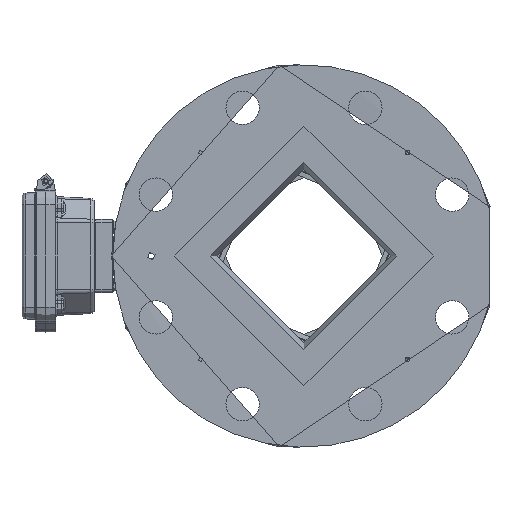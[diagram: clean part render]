
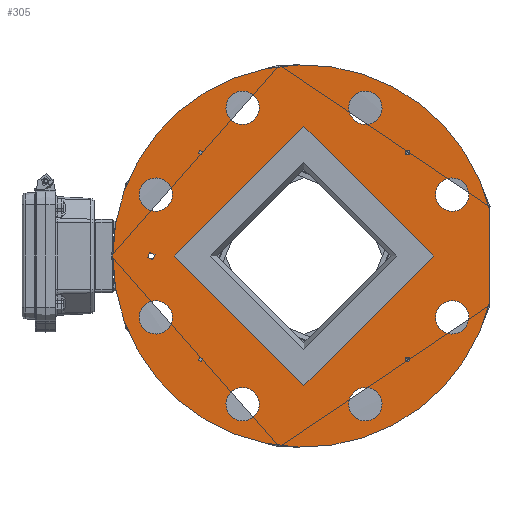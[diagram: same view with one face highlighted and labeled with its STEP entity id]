
A CAD part, left-side view. The second image highlights one B-rep face of the part: STEP entity #305.
In plain terms, the highlighted planar face has unit normal (-1, 0, 0).
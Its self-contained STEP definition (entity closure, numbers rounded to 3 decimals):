
#305=ADVANCED_FACE('',(#15922,#15924,#15926,#15928,#15930,#15932,#15934,#15936,#15938,
#15940,#15942,#15944,#15946,#15948,#15950),#15952,.T.);
#15922=FACE_BOUND('',#15923,.T.);
#15923=EDGE_LOOP('',(#30040,#30041));
#15924=FACE_BOUND('',#15925,.T.);
#15925=EDGE_LOOP('',(#30042));
#15926=FACE_BOUND('',#15927,.T.);
#15927=EDGE_LOOP('',(#30043));
#15928=FACE_BOUND('',#15929,.T.);
#15929=EDGE_LOOP('',(#30044));
#15930=FACE_BOUND('',#15931,.T.);
#15931=EDGE_LOOP('',(#30045));
#15932=FACE_BOUND('',#15933,.T.);
#15933=EDGE_LOOP('',(#30046));
#15934=FACE_BOUND('',#15935,.T.);
#15935=EDGE_LOOP('',(#30047));
#15936=FACE_BOUND('',#15937,.T.);
#15937=EDGE_LOOP('',(#30048));
#15938=FACE_BOUND('',#15939,.T.);
#15939=EDGE_LOOP('',(#30049));
#15940=FACE_BOUND('',#15941,.T.);
#15941=EDGE_LOOP('',(#30050));
#15942=FACE_BOUND('',#15943,.T.);
#15943=EDGE_LOOP('',(#30051));
#15944=FACE_BOUND('',#15945,.T.);
#15945=EDGE_LOOP('',(#30052));
#15946=FACE_BOUND('',#15947,.T.);
#15947=EDGE_LOOP('',(#30053));
#15948=FACE_BOUND('',#15949,.T.);
#15949=EDGE_LOOP('',(#30054));
#15950=FACE_BOUND('',#15951,.T.);
#15951=EDGE_LOOP('',(#30055));
#15952=PLANE('',#15953);
#15953=AXIS2_PLACEMENT_3D('',#15954,#15955,#15956);
#15954=CARTESIAN_POINT('',(-150.,-84.016,0.));
#15955=DIRECTION('',(-1.,0.,0.));
#15956=DIRECTION('',(0.,0.924,-0.383));
#30040=ORIENTED_EDGE('',*,*,#34749,.T.);
#30041=ORIENTED_EDGE('',*,*,#34770,.T.);
#30042=ORIENTED_EDGE('',*,*,#34755,.T.);
#30043=ORIENTED_EDGE('',*,*,#34771,.T.);
#30044=ORIENTED_EDGE('',*,*,#34756,.T.);
#30045=ORIENTED_EDGE('',*,*,#34772,.F.);
#30046=ORIENTED_EDGE('',*,*,#34758,.T.);
#30047=ORIENTED_EDGE('',*,*,#34759,.T.);
#30048=ORIENTED_EDGE('',*,*,#34760,.T.);
#30049=ORIENTED_EDGE('',*,*,#34761,.T.);
#30050=ORIENTED_EDGE('',*,*,#34762,.T.);
#30051=ORIENTED_EDGE('',*,*,#34763,.T.);
#30052=ORIENTED_EDGE('',*,*,#34764,.T.);
#30053=ORIENTED_EDGE('',*,*,#34773,.T.);
#30054=ORIENTED_EDGE('',*,*,#34774,.T.);
#30055=ORIENTED_EDGE('',*,*,#34775,.T.);
#34749=EDGE_CURVE('',#37153,#37151,#37154,.F.);
#34755=EDGE_CURVE('',#37162,#37162,#37163,.F.);
#34756=EDGE_CURVE('',#37164,#37164,#37165,.T.);
#34758=EDGE_CURVE('',#37168,#37168,#37169,.T.);
#34759=EDGE_CURVE('',#37170,#37170,#37171,.T.);
#34760=EDGE_CURVE('',#37172,#37172,#37173,.T.);
#34761=EDGE_CURVE('',#37174,#37174,#37175,.T.);
#34762=EDGE_CURVE('',#37176,#37176,#37177,.T.);
#34763=EDGE_CURVE('',#37178,#37178,#37179,.T.);
#34764=EDGE_CURVE('',#37180,#37180,#37181,.T.);
#34770=EDGE_CURVE('',#37151,#37153,#37191,.T.);
#34771=EDGE_CURVE('',#37192,#37192,#37193,.F.);
#34772=EDGE_CURVE('',#37194,#37194,#37195,.T.);
#34773=EDGE_CURVE('',#37196,#37196,#37197,.F.);
#34774=EDGE_CURVE('',#37198,#37198,#37199,.F.);
#34775=EDGE_CURVE('',#37200,#37200,#37201,.F.);
#37151=VERTEX_POINT('',#41169);
#37153=VERTEX_POINT('',#41180);
#37154=LINE('',#41181,#41182);
#37162=VERTEX_POINT('',#41223);
#37163=CIRCLE('',#41224,3.15);
#37164=VERTEX_POINT('',#41228);
#37165=CIRCLE('',#41229,13.);
#37168=VERTEX_POINT('',#41291);
#37169=CIRCLE('',#41292,13.);
#37170=VERTEX_POINT('',#41296);
#37171=CIRCLE('',#41297,13.);
#37172=VERTEX_POINT('',#41301);
#37173=CIRCLE('',#41302,13.);
#37174=VERTEX_POINT('',#41306);
#37175=CIRCLE('',#41307,13.);
#37176=VERTEX_POINT('',#41311);
#37177=CIRCLE('',#41312,13.);
#37178=VERTEX_POINT('',#41316);
#37179=CIRCLE('',#41317,13.);
#37180=VERTEX_POINT('',#41321);
#37181=CIRCLE('',#41322,13.);
#37191=CIRCLE('',#41559,149.);
#37192=VERTEX_POINT('',#41563);
#37193=CIRCLE('',#41564,1.85);
#37194=VERTEX_POINT('',#41568);
#37195=CIRCLE('',#41569,101.);
#37196=VERTEX_POINT('',#41573);
#37197=CIRCLE('',#41574,1.85);
#37198=VERTEX_POINT('',#41578);
#37199=CIRCLE('',#41579,1.85);
#37200=VERTEX_POINT('',#41583);
#37201=CIRCLE('',#41584,1.85);
#41169=CARTESIAN_POINT('',(-150.,-229.016,34.293));
#41180=CARTESIAN_POINT('',(-150.,-229.016,-34.293));
#41181=CARTESIAN_POINT('',(-150.,-229.016,34.293));
#41182=VECTOR('',#41183,1.);
#41183=DIRECTION('',(0.,0.,-1.));
#41223=CARTESIAN_POINT('',(-150.,33.779,-2.91));
#41224=AXIS2_PLACEMENT_3D('',#41225,#41226,#41227);
#41225=CARTESIAN_POINT('',(-150.,34.984,0.));
#41226=DIRECTION('',(-1.,0.,0.));
#41227=DIRECTION('',(0.,-0.383,-0.924));
#41228=CARTESIAN_POINT('',(-150.,26.494,-59.846));
#41229=AXIS2_PLACEMENT_3D('',#41230,#41231,#41232);
#41230=CARTESIAN_POINT('',(-150.,31.469,-47.835));
#41231=DIRECTION('',(1.,0.,0.));
#41232=DIRECTION('',(0.,-0.383,-0.924));
#41291=CARTESIAN_POINT('',(-150.,-48.191,-120.46));
#41292=AXIS2_PLACEMENT_3D('',#41293,#41294,#41295);
#41293=CARTESIAN_POINT('',(-150.,-36.18,-115.485));
#41294=DIRECTION('',(1.,0.,0.));
#41295=DIRECTION('',(0.,-0.924,-0.383));
#41296=CARTESIAN_POINT('',(-150.,-143.862,-110.51));
#41297=AXIS2_PLACEMENT_3D('',#41298,#41299,#41300);
#41298=CARTESIAN_POINT('',(-150.,-131.851,-115.485));
#41299=DIRECTION('',(1.,0.,0.));
#41300=DIRECTION('',(0.,-0.924,0.383));
#41301=CARTESIAN_POINT('',(-150.,-204.476,-35.825));
#41302=AXIS2_PLACEMENT_3D('',#41303,#41304,#41305);
#41303=CARTESIAN_POINT('',(-150.,-199.501,-47.835));
#41304=DIRECTION('',(1.,0.,0.));
#41305=DIRECTION('',(0.,-0.383,0.924));
#41306=CARTESIAN_POINT('',(-150.,-194.526,59.846));
#41307=AXIS2_PLACEMENT_3D('',#41308,#41309,#41310);
#41308=CARTESIAN_POINT('',(-150.,-199.501,47.835));
#41309=DIRECTION('',(1.,0.,0.));
#41310=DIRECTION('',(0.,0.383,0.924));
#41311=CARTESIAN_POINT('',(-150.,-119.841,120.46));
#41312=AXIS2_PLACEMENT_3D('',#41313,#41314,#41315);
#41313=CARTESIAN_POINT('',(-150.,-131.851,115.485));
#41314=DIRECTION('',(1.,0.,0.));
#41315=DIRECTION('',(0.,0.924,0.383));
#41316=CARTESIAN_POINT('',(-150.,-24.17,110.51));
#41317=AXIS2_PLACEMENT_3D('',#41318,#41319,#41320);
#41318=CARTESIAN_POINT('',(-150.,-36.18,115.485));
#41319=DIRECTION('',(1.,0.,0.));
#41320=DIRECTION('',(0.,0.924,-0.383));
#41321=CARTESIAN_POINT('',(-150.,36.444,35.825));
#41322=AXIS2_PLACEMENT_3D('',#41323,#41324,#41325);
#41323=CARTESIAN_POINT('',(-150.,31.469,47.835));
#41324=DIRECTION('',(1.,0.,0.));
#41325=DIRECTION('',(0.,0.383,-0.924));
#41559=AXIS2_PLACEMENT_3D('',#41560,#41561,#41562);
#41560=CARTESIAN_POINT('',(-150.,-84.016,0.));
#41561=DIRECTION('',(-1.,0.,0.));
#41562=DIRECTION('',(0.,-0.973,0.23));
#41563=CARTESIAN_POINT('',(-150.,-4.113,78.901));
#41564=AXIS2_PLACEMENT_3D('',#41565,#41566,#41567);
#41565=CARTESIAN_POINT('',(-150.,-3.406,80.61));
#41566=DIRECTION('',(-1.,0.,0.));
#41567=DIRECTION('',(0.,-0.383,-0.924));
#41568=CARTESIAN_POINT('',(-150.,16.984,0.));
#41569=AXIS2_PLACEMENT_3D('',#41570,#41571,#41572);
#41570=CARTESIAN_POINT('',(-150.,-84.016,0.));
#41571=DIRECTION('',(-1.,0.,0.));
#41572=DIRECTION('',(0.,0.924,-0.383));
#41573=CARTESIAN_POINT('',(-150.,-5.115,-79.902));
#41574=AXIS2_PLACEMENT_3D('',#41575,#41576,#41577);
#41575=CARTESIAN_POINT('',(-150.,-3.406,-80.61));
#41576=DIRECTION('',(-1.,0.,0.));
#41577=DIRECTION('',(0.,-0.924,0.383));
#41578=CARTESIAN_POINT('',(-150.,-163.918,-78.901));
#41579=AXIS2_PLACEMENT_3D('',#41580,#41581,#41582);
#41580=CARTESIAN_POINT('',(-150.,-164.626,-80.61));
#41581=DIRECTION('',(-1.,0.,0.));
#41582=DIRECTION('',(0.,0.383,0.924));
#41583=CARTESIAN_POINT('',(-150.,-162.917,79.902));
#41584=AXIS2_PLACEMENT_3D('',#41585,#41586,#41587);
#41585=CARTESIAN_POINT('',(-150.,-164.626,80.61));
#41586=DIRECTION('',(-1.,0.,0.));
#41587=DIRECTION('',(0.,0.924,-0.383));
